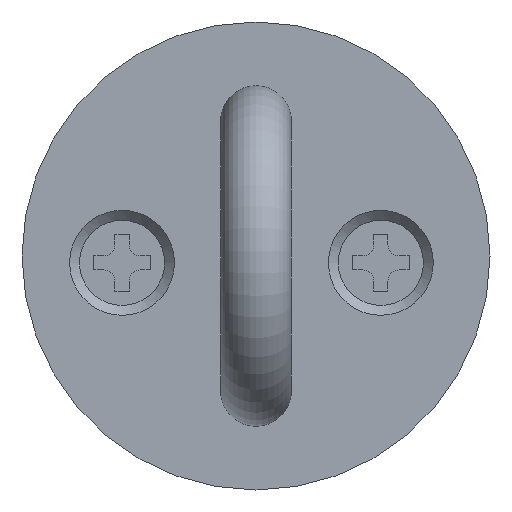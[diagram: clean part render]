
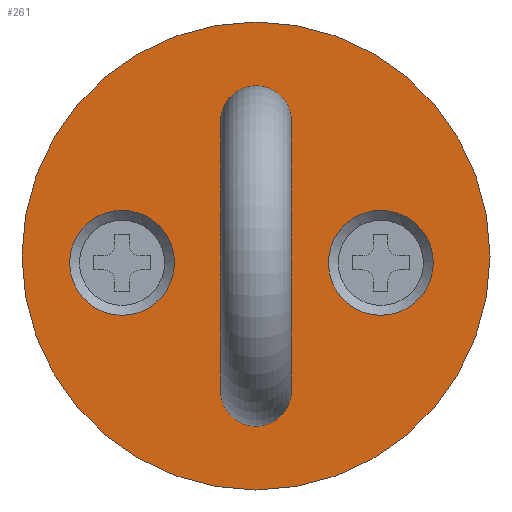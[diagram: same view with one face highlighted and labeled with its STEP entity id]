
A CAD part, left-side view. The second image highlights one B-rep face of the part: STEP entity #261.
In plain terms, the highlighted planar face has unit normal (-1, 0, 0) as drawn and (0, 0, 1) by its records, which use the part's own axes.
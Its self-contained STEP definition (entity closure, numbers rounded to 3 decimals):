
#261=ADVANCED_FACE('',(#532,#533,#534,#535,#536),#537,.T.);
#532=FACE_BOUND('',#882,.T.);
#533=FACE_BOUND('',#883,.T.);
#534=FACE_BOUND('',#884,.T.);
#535=FACE_BOUND('',#885,.T.);
#536=FACE_OUTER_BOUND('',#886,.T.);
#537=PLANE('',#887);
#882=EDGE_LOOP('',(#1252));
#883=EDGE_LOOP('',(#1253));
#884=EDGE_LOOP('',(#1254));
#885=EDGE_LOOP('',(#1255));
#886=EDGE_LOOP('',(#1256));
#887=AXIS2_PLACEMENT_3D('',#1257,#1258,#1259);
#1252=ORIENTED_EDGE('',*,*,#2166,.F.);
#1253=ORIENTED_EDGE('',*,*,#2167,.F.);
#1254=ORIENTED_EDGE('',*,*,#2168,.F.);
#1255=ORIENTED_EDGE('',*,*,#2169,.F.);
#1256=ORIENTED_EDGE('',*,*,#2170,.T.);
#1257=CARTESIAN_POINT('',(16.5,16.5,6.5));
#1258=DIRECTION('',(0.0,0.0,1.0));
#1259=DIRECTION('',(1.0,0.0,0.0));
#2166=EDGE_CURVE('',#2551,#2551,#2552,.T.);
#2167=EDGE_CURVE('',#2553,#2553,#2554,.T.);
#2168=EDGE_CURVE('',#2555,#2555,#2556,.T.);
#2169=EDGE_CURVE('',#2557,#2557,#2558,.T.);
#2170=EDGE_CURVE('',#2559,#2559,#2560,.T.);
#2551=VERTEX_POINT('',#3118);
#2552=CIRCLE('',#3119,3.7);
#2553=VERTEX_POINT('',#3120);
#2554=CIRCLE('',#3121,3.7);
#2555=VERTEX_POINT('',#3122);
#2556=CIRCLE('',#3123,2.5);
#2557=VERTEX_POINT('',#3124);
#2558=CIRCLE('',#3125,2.5);
#2559=VERTEX_POINT('',#3126);
#2560=CIRCLE('',#3127,16.5);
#3118=CARTESIAN_POINT('',(16.018,11.396,6.5));
#3119=AXIS2_PLACEMENT_3D('',#3825,#3826,#3827);
#3120=CARTESIAN_POINT('',(16.018,29.645,6.5));
#3121=AXIS2_PLACEMENT_3D('',#3828,#3829,#3830);
#3122=CARTESIAN_POINT('',(9.5,16.5,6.5));
#3123=AXIS2_PLACEMENT_3D('',#3831,#3832,#3833);
#3124=CARTESIAN_POINT('',(28.5,16.5,6.5));
#3125=AXIS2_PLACEMENT_3D('',#3834,#3835,#3836);
#3126=CARTESIAN_POINT('',(33.0,16.5,6.5));
#3127=AXIS2_PLACEMENT_3D('',#3837,#3838,#3839);
#3825=CARTESIAN_POINT('',(16.018,7.696,6.5));
#3826=DIRECTION('',(0.0,0.,1.0));
#3827=DIRECTION('',(0.0,1.0,0.));
#3828=CARTESIAN_POINT('',(16.018,25.945,6.5));
#3829=DIRECTION('',(0.0,0.,1.0));
#3830=DIRECTION('',(0.0,1.0,0.));
#3831=CARTESIAN_POINT('',(7.0,16.5,6.5));
#3832=DIRECTION('',(0.0,0.0,1.0));
#3833=DIRECTION('',(1.0,0.0,0.0));
#3834=CARTESIAN_POINT('',(26.0,16.5,6.5));
#3835=DIRECTION('',(0.0,0.0,1.0));
#3836=DIRECTION('',(1.0,0.0,0.0));
#3837=CARTESIAN_POINT('',(16.5,16.5,6.5));
#3838=DIRECTION('',(0.0,0.0,1.0));
#3839=DIRECTION('',(1.0,0.0,0.0));
